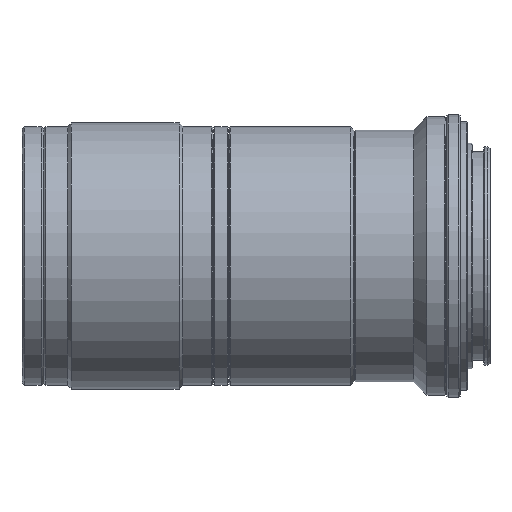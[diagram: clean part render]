
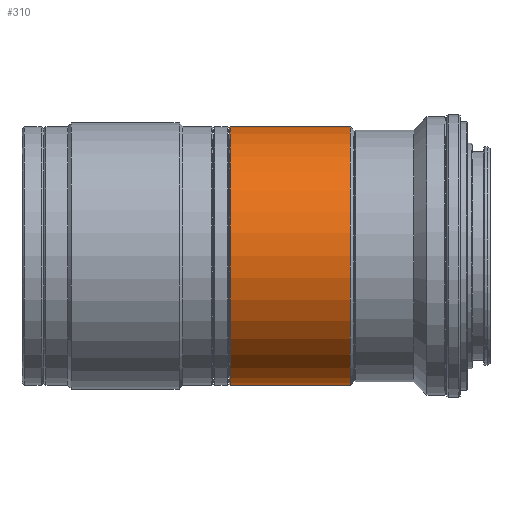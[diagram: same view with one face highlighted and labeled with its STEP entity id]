
A CAD part, top view. The second image highlights one B-rep face of the part: STEP entity #310.
In plain terms, the highlighted cylindrical face has radius 27 mm (diameter 54 mm), a partial arc.
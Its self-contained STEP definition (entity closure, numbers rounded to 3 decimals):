
#69 = EDGE_CURVE ( 'NONE', #5132, #5131, #1775, .T. ) ;
#71 = EDGE_CURVE ( 'NONE', #5131, #5130, #1778, .T. ) ;
#72 = EDGE_CURVE ( 'NONE', #5129, #5130, #1780, .T. ) ;
#73 = EDGE_CURVE ( 'NONE', #5132, #5129, #1777, .T. ) ;
#310 = ADVANCED_FACE ( 'NONE', ( #3340 ), #3353, .T. ) ;
#658 = AXIS2_PLACEMENT_3D ( 'NONE', #2030, #2031, #2032 ) ;
#659 = AXIS2_PLACEMENT_3D ( 'NONE', #2038, #2039, #2040 ) ;
#695 = ORIENTED_EDGE ( 'NONE', *, *, #69, .T. ) ;
#696 = ORIENTED_EDGE ( 'NONE', *, *, #71, .T. ) ;
#697 = ORIENTED_EDGE ( 'NONE', *, *, #72, .F. ) ;
#698 = ORIENTED_EDGE ( 'NONE', *, *, #73, .F. ) ;
#1516 = EDGE_LOOP ( 'NONE', ( #695, #696, #697, #698 ) ) ;
#1775 = CIRCLE ( 'NONE', #658, 27. ) ;
#1777 = LINE ( 'NONE', #2037, #1784 ) ;
#1778 = LINE ( 'NONE', #2033, #1781 ) ;
#1780 = CIRCLE ( 'NONE', #659, 27. ) ;
#1781 = VECTOR ( 'NONE', #2034, 1000. ) ;
#1784 = VECTOR ( 'NONE', #2028, 1000. ) ;
#2028 = DIRECTION ( 'NONE',  ( 1., 0., 0. ) ) ;
#2030 = CARTESIAN_POINT ( 'NONE',  ( -96.1, 0., 0. ) ) ;
#2031 = DIRECTION ( 'NONE',  ( 1., 0., 0. ) ) ;
#2032 = DIRECTION ( 'NONE',  ( 0., 1., 0. ) ) ;
#2033 = CARTESIAN_POINT ( 'NONE',  ( 0., -27., 0. ) ) ;
#2034 = DIRECTION ( 'NONE',  ( 1., 0., 0. ) ) ;
#2037 = CARTESIAN_POINT ( 'NONE',  ( 0., 27., 0. ) ) ;
#2038 = CARTESIAN_POINT ( 'NONE',  ( -71.05, 0., 0. ) ) ;
#2039 = DIRECTION ( 'NONE',  ( 1., 0., 0. ) ) ;
#2040 = DIRECTION ( 'NONE',  ( 0., 1., 0. ) ) ;
#2715 = AXIS2_PLACEMENT_3D ( 'NONE', #3202, #3200, #3198 ) ;
#3198 = DIRECTION ( 'NONE',  ( 0., 1., 0. ) ) ;
#3200 = DIRECTION ( 'NONE',  ( 1., 0., 0. ) ) ;
#3202 = CARTESIAN_POINT ( 'NONE',  ( 0., 0., 0. ) ) ;
#3340 = FACE_OUTER_BOUND ( 'NONE', #1516, .T. ) ;
#3353 = CYLINDRICAL_SURFACE ( 'NONE', #2715, 27. ) ;
#4863 = CARTESIAN_POINT ( 'NONE',  ( -71.05, 27., 0. ) ) ;
#4864 = CARTESIAN_POINT ( 'NONE',  ( -71.05, -27., 0. ) ) ;
#4865 = CARTESIAN_POINT ( 'NONE',  ( -96.1, -27., 0. ) ) ;
#4866 = CARTESIAN_POINT ( 'NONE',  ( -96.1, 27., 0. ) ) ;
#5129 = VERTEX_POINT ( 'NONE', #4863 ) ;
#5130 = VERTEX_POINT ( 'NONE', #4864 ) ;
#5131 = VERTEX_POINT ( 'NONE', #4865 ) ;
#5132 = VERTEX_POINT ( 'NONE', #4866 ) ;
